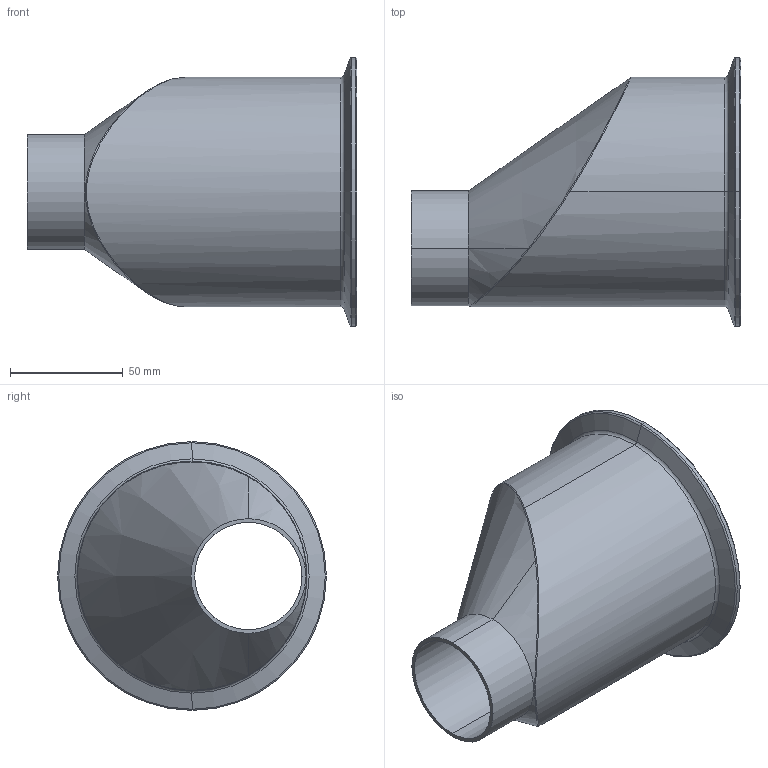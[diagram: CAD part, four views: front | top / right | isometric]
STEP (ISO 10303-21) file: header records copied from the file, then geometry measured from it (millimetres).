
FILE_DESCRIPTION (( 'STEP AP214' ), '1' );
FILE_NAME ('ARVS2.04.0WCA.STEP', '2016-06-01T10:31:38', ( 'eran' ), ( '' ), 'SwSTEP 2.0', 'SolidWorks 2016', '' );
FILE_SCHEMA (( 'AUTOMOTIVE_DESIGN' ));
Length unit declared in the file: millimetre
Products named in the file (1): ARVS2.04.0WCA
Bounding box: 146.05 x 119 x 119 mm (x, y, z)
Volume: 361269.1 mm3; surface area: 77255.6 mm2
Topology: 1 solids, 1 shells, 51 faces, 113 edges, 63 vertices
Faces by surface type: cone 18, torus 13, cylinder 13, bspline 4, plane 3
Entity records: 2402 total; most frequent: CARTESIAN_POINT 1271, DIRECTION 244, ORIENTED_EDGE 222, EDGE_CURVE 111, AXIS2_PLACEMENT_3D 108, VERTEX_POINT 63, CIRCLE 60, EDGE_LOOP 54
